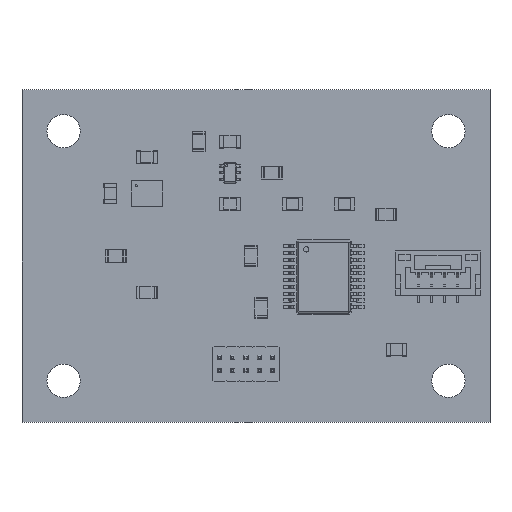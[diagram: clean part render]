
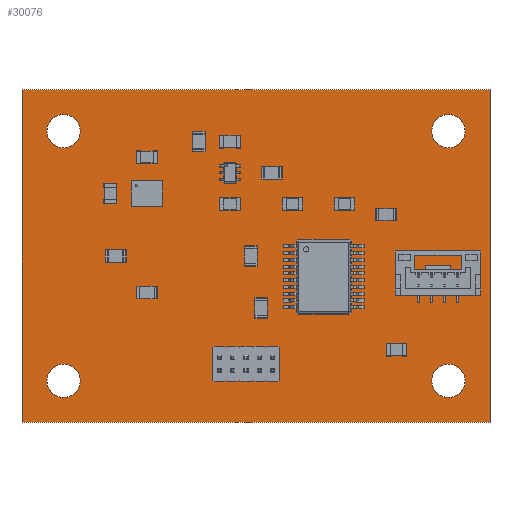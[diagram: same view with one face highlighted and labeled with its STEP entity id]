
A CAD part, top view. The second image highlights one B-rep face of the part: STEP entity #30076.
In plain terms, the highlighted planar face has unit normal (0, 0, 1).
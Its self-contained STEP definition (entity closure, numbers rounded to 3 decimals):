
#29810 = VERTEX_POINT('',#29811);
#29811 = CARTESIAN_POINT('',(45.,-32.,1.51));
#29817 = EDGE_CURVE('',#29810,#29818,#29820,.T.);
#29818 = VERTEX_POINT('',#29819);
#29819 = CARTESIAN_POINT('',(0.,-32.,1.51));
#29820 = LINE('',#29821,#29822);
#29821 = CARTESIAN_POINT('',(45.,-32.,1.51));
#29822 = VECTOR('',#29823,1.);
#29823 = DIRECTION('',(-1.,0.,0.));
#29850 = VERTEX_POINT('',#29851);
#29851 = CARTESIAN_POINT('',(45.,0.,1.51));
#29857 = EDGE_CURVE('',#29850,#29810,#29858,.T.);
#29858 = LINE('',#29859,#29860);
#29859 = CARTESIAN_POINT('',(45.,0.,1.51));
#29860 = VECTOR('',#29861,1.);
#29861 = DIRECTION('',(0.,-1.,0.));
#29879 = EDGE_CURVE('',#29818,#29880,#29882,.T.);
#29880 = VERTEX_POINT('',#29881);
#29881 = CARTESIAN_POINT('',(0.,0.,1.51));
#29882 = LINE('',#29883,#29884);
#29883 = CARTESIAN_POINT('',(0.,-32.,1.51));
#29884 = VECTOR('',#29885,1.);
#29885 = DIRECTION('',(0.,1.,0.));
#30076 = ADVANCED_FACE('',(#30077,#30088,#30099,#30110,#30121,#30132,
    #30143,#30154,#30165,#30176,#30187,#30198,#30209,#30220,#30231),
  #30242,.T.);
#30077 = FACE_BOUND('',#30078,.T.);
#30078 = EDGE_LOOP('',(#30079,#30080,#30081,#30087));
#30079 = ORIENTED_EDGE('',*,*,#29817,.F.);
#30080 = ORIENTED_EDGE('',*,*,#29857,.F.);
#30081 = ORIENTED_EDGE('',*,*,#30082,.F.);
#30082 = EDGE_CURVE('',#29880,#29850,#30083,.T.);
#30083 = LINE('',#30084,#30085);
#30084 = CARTESIAN_POINT('',(0.,0.,1.51));
#30085 = VECTOR('',#30086,1.);
#30086 = DIRECTION('',(1.,0.,0.));
#30087 = ORIENTED_EDGE('',*,*,#29879,.F.);
#30088 = FACE_BOUND('',#30089,.T.);
#30089 = EDGE_LOOP('',(#30090));
#30090 = ORIENTED_EDGE('',*,*,#30091,.T.);
#30091 = EDGE_CURVE('',#30092,#30092,#30094,.T.);
#30092 = VERTEX_POINT('',#30093);
#30093 = CARTESIAN_POINT('',(4.,-29.6,1.51));
#30094 = CIRCLE('',#30095,1.6);
#30095 = AXIS2_PLACEMENT_3D('',#30096,#30097,#30098);
#30096 = CARTESIAN_POINT('',(4.,-28.,1.51));
#30097 = DIRECTION('',(-0.,0.,-1.));
#30098 = DIRECTION('',(-0.,-1.,0.));
#30099 = FACE_BOUND('',#30100,.T.);
#30100 = EDGE_LOOP('',(#30101));
#30101 = ORIENTED_EDGE('',*,*,#30102,.T.);
#30102 = EDGE_CURVE('',#30103,#30103,#30105,.T.);
#30103 = VERTEX_POINT('',#30104);
#30104 = CARTESIAN_POINT('',(19.,-27.325,1.51));
#30105 = CIRCLE('',#30106,0.325);
#30106 = AXIS2_PLACEMENT_3D('',#30107,#30108,#30109);
#30107 = CARTESIAN_POINT('',(19.,-27.,1.51));
#30108 = DIRECTION('',(-0.,0.,-1.));
#30109 = DIRECTION('',(-0.,-1.,0.));
#30110 = FACE_BOUND('',#30111,.T.);
#30111 = EDGE_LOOP('',(#30112));
#30112 = ORIENTED_EDGE('',*,*,#30113,.T.);
#30113 = EDGE_CURVE('',#30114,#30114,#30116,.T.);
#30114 = VERTEX_POINT('',#30115);
#30115 = CARTESIAN_POINT('',(20.27,-27.325,1.51));
#30116 = CIRCLE('',#30117,0.325);
#30117 = AXIS2_PLACEMENT_3D('',#30118,#30119,#30120);
#30118 = CARTESIAN_POINT('',(20.27,-27.,1.51));
#30119 = DIRECTION('',(-0.,0.,-1.));
#30120 = DIRECTION('',(-0.,-1.,0.));
#30121 = FACE_BOUND('',#30122,.T.);
#30122 = EDGE_LOOP('',(#30123));
#30123 = ORIENTED_EDGE('',*,*,#30124,.T.);
#30124 = EDGE_CURVE('',#30125,#30125,#30127,.T.);
#30125 = VERTEX_POINT('',#30126);
#30126 = CARTESIAN_POINT('',(21.54,-27.325,1.51));
#30127 = CIRCLE('',#30128,0.325);
#30128 = AXIS2_PLACEMENT_3D('',#30129,#30130,#30131);
#30129 = CARTESIAN_POINT('',(21.54,-27.,1.51));
#30130 = DIRECTION('',(-0.,0.,-1.));
#30131 = DIRECTION('',(-0.,-1.,0.));
#30132 = FACE_BOUND('',#30133,.T.);
#30133 = EDGE_LOOP('',(#30134));
#30134 = ORIENTED_EDGE('',*,*,#30135,.T.);
#30135 = EDGE_CURVE('',#30136,#30136,#30138,.T.);
#30136 = VERTEX_POINT('',#30137);
#30137 = CARTESIAN_POINT('',(19.,-26.055,1.51));
#30138 = CIRCLE('',#30139,0.325);
#30139 = AXIS2_PLACEMENT_3D('',#30140,#30141,#30142);
#30140 = CARTESIAN_POINT('',(19.,-25.73,1.51));
#30141 = DIRECTION('',(-0.,0.,-1.));
#30142 = DIRECTION('',(-0.,-1.,0.));
#30143 = FACE_BOUND('',#30144,.T.);
#30144 = EDGE_LOOP('',(#30145));
#30145 = ORIENTED_EDGE('',*,*,#30146,.T.);
#30146 = EDGE_CURVE('',#30147,#30147,#30149,.T.);
#30147 = VERTEX_POINT('',#30148);
#30148 = CARTESIAN_POINT('',(20.27,-26.055,1.51));
#30149 = CIRCLE('',#30150,0.325);
#30150 = AXIS2_PLACEMENT_3D('',#30151,#30152,#30153);
#30151 = CARTESIAN_POINT('',(20.27,-25.73,1.51));
#30152 = DIRECTION('',(-0.,0.,-1.));
#30153 = DIRECTION('',(-0.,-1.,0.));
#30154 = FACE_BOUND('',#30155,.T.);
#30155 = EDGE_LOOP('',(#30156));
#30156 = ORIENTED_EDGE('',*,*,#30157,.T.);
#30157 = EDGE_CURVE('',#30158,#30158,#30160,.T.);
#30158 = VERTEX_POINT('',#30159);
#30159 = CARTESIAN_POINT('',(21.54,-26.055,1.51));
#30160 = CIRCLE('',#30161,0.325);
#30161 = AXIS2_PLACEMENT_3D('',#30162,#30163,#30164);
#30162 = CARTESIAN_POINT('',(21.54,-25.73,1.51));
#30163 = DIRECTION('',(-0.,0.,-1.));
#30164 = DIRECTION('',(-0.,-1.,0.));
#30165 = FACE_BOUND('',#30166,.T.);
#30166 = EDGE_LOOP('',(#30167));
#30167 = ORIENTED_EDGE('',*,*,#30168,.T.);
#30168 = EDGE_CURVE('',#30169,#30169,#30171,.T.);
#30169 = VERTEX_POINT('',#30170);
#30170 = CARTESIAN_POINT('',(22.81,-27.325,1.51));
#30171 = CIRCLE('',#30172,0.325);
#30172 = AXIS2_PLACEMENT_3D('',#30173,#30174,#30175);
#30173 = CARTESIAN_POINT('',(22.81,-27.,1.51));
#30174 = DIRECTION('',(-0.,0.,-1.));
#30175 = DIRECTION('',(0.,-1.,0.));
#30176 = FACE_BOUND('',#30177,.T.);
#30177 = EDGE_LOOP('',(#30178));
#30178 = ORIENTED_EDGE('',*,*,#30179,.T.);
#30179 = EDGE_CURVE('',#30180,#30180,#30182,.T.);
#30180 = VERTEX_POINT('',#30181);
#30181 = CARTESIAN_POINT('',(24.08,-27.325,1.51));
#30182 = CIRCLE('',#30183,0.325);
#30183 = AXIS2_PLACEMENT_3D('',#30184,#30185,#30186);
#30184 = CARTESIAN_POINT('',(24.08,-27.,1.51));
#30185 = DIRECTION('',(-0.,0.,-1.));
#30186 = DIRECTION('',(-0.,-1.,0.));
#30187 = FACE_BOUND('',#30188,.T.);
#30188 = EDGE_LOOP('',(#30189));
#30189 = ORIENTED_EDGE('',*,*,#30190,.T.);
#30190 = EDGE_CURVE('',#30191,#30191,#30193,.T.);
#30191 = VERTEX_POINT('',#30192);
#30192 = CARTESIAN_POINT('',(22.81,-26.055,1.51));
#30193 = CIRCLE('',#30194,0.325);
#30194 = AXIS2_PLACEMENT_3D('',#30195,#30196,#30197);
#30195 = CARTESIAN_POINT('',(22.81,-25.73,1.51));
#30196 = DIRECTION('',(-0.,0.,-1.));
#30197 = DIRECTION('',(0.,-1.,0.));
#30198 = FACE_BOUND('',#30199,.T.);
#30199 = EDGE_LOOP('',(#30200));
#30200 = ORIENTED_EDGE('',*,*,#30201,.T.);
#30201 = EDGE_CURVE('',#30202,#30202,#30204,.T.);
#30202 = VERTEX_POINT('',#30203);
#30203 = CARTESIAN_POINT('',(24.08,-26.055,1.51));
#30204 = CIRCLE('',#30205,0.325);
#30205 = AXIS2_PLACEMENT_3D('',#30206,#30207,#30208);
#30206 = CARTESIAN_POINT('',(24.08,-25.73,1.51));
#30207 = DIRECTION('',(-0.,0.,-1.));
#30208 = DIRECTION('',(-0.,-1.,0.));
#30209 = FACE_BOUND('',#30210,.T.);
#30210 = EDGE_LOOP('',(#30211));
#30211 = ORIENTED_EDGE('',*,*,#30212,.T.);
#30212 = EDGE_CURVE('',#30213,#30213,#30215,.T.);
#30213 = VERTEX_POINT('',#30214);
#30214 = CARTESIAN_POINT('',(41.,-29.6,1.51));
#30215 = CIRCLE('',#30216,1.6);
#30216 = AXIS2_PLACEMENT_3D('',#30217,#30218,#30219);
#30217 = CARTESIAN_POINT('',(41.,-28.,1.51));
#30218 = DIRECTION('',(-0.,0.,-1.));
#30219 = DIRECTION('',(-0.,-1.,0.));
#30220 = FACE_BOUND('',#30221,.T.);
#30221 = EDGE_LOOP('',(#30222));
#30222 = ORIENTED_EDGE('',*,*,#30223,.T.);
#30223 = EDGE_CURVE('',#30224,#30224,#30226,.T.);
#30224 = VERTEX_POINT('',#30225);
#30225 = CARTESIAN_POINT('',(4.,-5.6,1.51));
#30226 = CIRCLE('',#30227,1.6);
#30227 = AXIS2_PLACEMENT_3D('',#30228,#30229,#30230);
#30228 = CARTESIAN_POINT('',(4.,-4.,1.51));
#30229 = DIRECTION('',(-0.,0.,-1.));
#30230 = DIRECTION('',(-0.,-1.,0.));
#30231 = FACE_BOUND('',#30232,.T.);
#30232 = EDGE_LOOP('',(#30233));
#30233 = ORIENTED_EDGE('',*,*,#30234,.T.);
#30234 = EDGE_CURVE('',#30235,#30235,#30237,.T.);
#30235 = VERTEX_POINT('',#30236);
#30236 = CARTESIAN_POINT('',(41.,-5.6,1.51));
#30237 = CIRCLE('',#30238,1.6);
#30238 = AXIS2_PLACEMENT_3D('',#30239,#30240,#30241);
#30239 = CARTESIAN_POINT('',(41.,-4.,1.51));
#30240 = DIRECTION('',(-0.,0.,-1.));
#30241 = DIRECTION('',(-0.,-1.,0.));
#30242 = PLANE('',#30243);
#30243 = AXIS2_PLACEMENT_3D('',#30244,#30245,#30246);
#30244 = CARTESIAN_POINT('',(0.,0.,1.51));
#30245 = DIRECTION('',(0.,0.,1.));
#30246 = DIRECTION('',(1.,0.,-0.));
